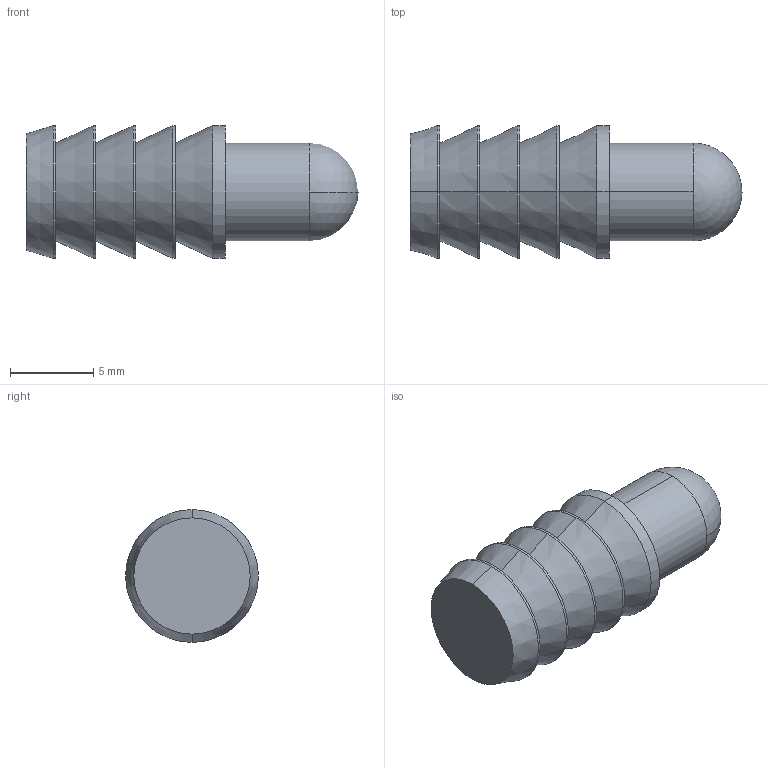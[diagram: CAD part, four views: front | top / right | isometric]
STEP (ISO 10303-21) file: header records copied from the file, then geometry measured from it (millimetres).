
FILE_DESCRIPTION (( 'STEP AP214' ), '1' );
FILE_NAME ('04_Ø8x20_Tischverbinder_DZ000191.STEP', '2026-03-24T14:07:55', ( '' ), ( '' ), 'SwSTEP 2.0', 'SolidWorks 2021', '' );
FILE_SCHEMA (( 'AUTOMOTIVE_DESIGN' ));
Length unit declared in the file: millimetre
Products named in the file (1): 04_Ø8x20_Tischverbinder_DZ000191
Bounding box: 20 x 8 x 8 mm (x, y, z)
Volume: 676.6 mm3; surface area: 592.8 mm2
Topology: 1 solids, 1 shells, 30 faces, 62 edges, 37 vertices
Faces by surface type: cylinder 12, cone 10, plane 6, sphere 2
Entity records: 824 total; most frequent: DIRECTION 160, CARTESIAN_POINT 128, ORIENTED_EDGE 120, AXIS2_PLACEMENT_3D 69, EDGE_CURVE 60, CIRCLE 38, VERTEX_POINT 37, EDGE_LOOP 35
